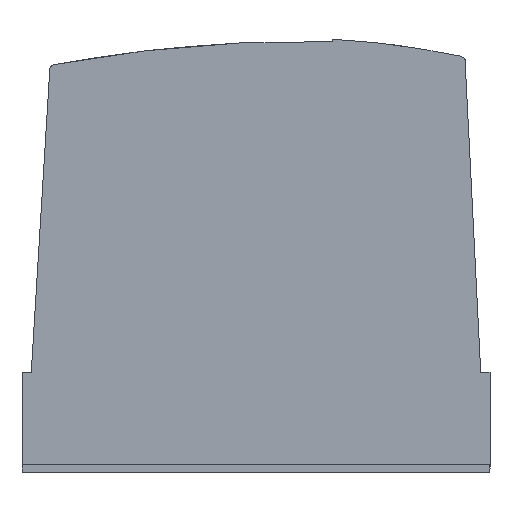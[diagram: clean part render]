
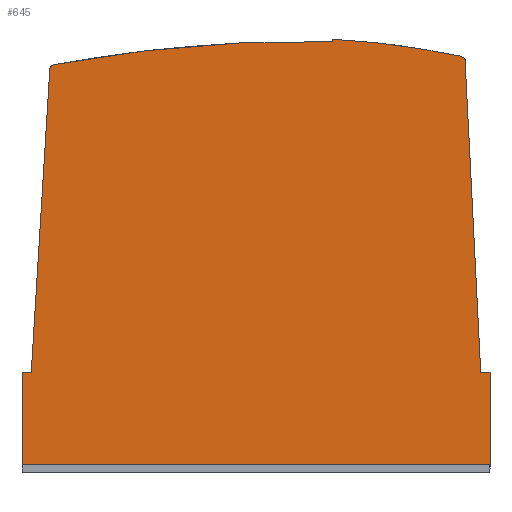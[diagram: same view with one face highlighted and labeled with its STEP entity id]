
A CAD part, top view. The second image highlights one B-rep face of the part: STEP entity #645.
In plain terms, the highlighted planar face has unit normal (0, 0, 1).
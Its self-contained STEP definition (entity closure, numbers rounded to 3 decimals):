
#108 = DIRECTION ( 'NONE',  ( -1., 0., 0. ) ) ;
#178 = CARTESIAN_POINT ( 'NONE',  ( 9.641, -125.567, 178. ) ) ;
#254 = PLANE ( 'NONE',  #2077 ) ;
#298 = CARTESIAN_POINT ( 'NONE',  ( 9.641, -350.081, 178. ) ) ;
#322 = DIRECTION ( 'NONE',  ( -1., 0., 0. ) ) ;
#360 = AXIS2_PLACEMENT_3D ( 'NONE', #4106, #3176, #765 ) ;
#375 = EDGE_CURVE ( 'NONE', #2618, #4535, #4287, .T. ) ;
#471 = DIRECTION ( 'NONE',  ( 0., 0., 1. ) ) ;
#507 = VERTEX_POINT ( 'NONE', #5989 ) ;
#521 = CARTESIAN_POINT ( 'NONE',  ( 106.083, 96.762, 178. ) ) ;
#546 = CARTESIAN_POINT ( 'NONE',  ( 34.122, 108.175, 178. ) ) ;
#559 = VECTOR ( 'NONE', #2650, 1000. ) ;
#645 = ADVANCED_FACE ( 'NONE', ( #992 ), #254, .F. ) ;
#647 = VERTEX_POINT ( 'NONE', #3710 ) ;
#697 = EDGE_CURVE ( 'NONE', #3667, #3881, #2414, .T. ) ;
#765 = DIRECTION ( 'NONE',  ( -1., 0., 0. ) ) ;
#777 = ORIENTED_EDGE ( 'NONE', *, *, #1789, .T. ) ;
#821 = VECTOR ( 'NONE', #4185, 1000. ) ;
#834 = VECTOR ( 'NONE', #322, 1000. ) ;
#936 = DIRECTION ( 'NONE',  ( 0., 0., 1. ) ) ;
#983 = CARTESIAN_POINT ( 'NONE',  ( 120.854, -125.567, 178. ) ) ;
#992 = FACE_OUTER_BOUND ( 'NONE', #3381, .T. ) ;
#1169 = CARTESIAN_POINT ( 'NONE',  ( -136.146, -125.567, 178. ) ) ;
#1178 = ORIENTED_EDGE ( 'NONE', *, *, #4731, .T. ) ;
#1241 = VERTEX_POINT ( 'NONE', #3841 ) ;
#1244 = EDGE_CURVE ( 'NONE', #4617, #2350, #6083, .T. ) ;
#1270 = VERTEX_POINT ( 'NONE', #6311 ) ;
#1283 = VECTOR ( 'NONE', #3240, 1000. ) ;
#1286 = VECTOR ( 'NONE', #4028, 1000. ) ;
#1290 = DIRECTION ( 'NONE',  ( 0., -1., 0. ) ) ;
#1295 = DIRECTION ( 'NONE',  ( 0., 0., 1. ) ) ;
#1389 = CARTESIAN_POINT ( 'NONE',  ( 9.641, -125.567, 178. ) ) ;
#1409 = DIRECTION ( 'NONE',  ( 1., 0., 0. ) ) ;
#1605 = EDGE_CURVE ( 'NONE', #2350, #6088, #5327, .T. ) ;
#1701 = EDGE_CURVE ( 'NONE', #2734, #5488, #3181, .T. ) ;
#1762 = LINE ( 'NONE', #5133, #559 ) ;
#1789 = EDGE_CURVE ( 'NONE', #3453, #507, #4625, .T. ) ;
#1814 = CARTESIAN_POINT ( 'NONE',  ( 106.96, 97.415, 178. ) ) ;
#1882 = EDGE_CURVE ( 'NONE', #1241, #5334, #5863, .T. ) ;
#1890 = DIRECTION ( 'NONE',  ( 1., 0., 0. ) ) ;
#1919 = EDGE_CURVE ( 'NONE', #2104, #3522, #4326, .T. ) ;
#1990 = DIRECTION ( 'NONE',  ( 0., 1., 0. ) ) ;
#2077 = AXIS2_PLACEMENT_3D ( 'NONE', #298, #2762, #2175 ) ;
#2090 = LINE ( 'NONE', #5678, #821 ) ;
#2104 = VERTEX_POINT ( 'NONE', #4109 ) ;
#2152 = EDGE_CURVE ( 'NONE', #3522, #3310, #5149, .T. ) ;
#2175 = DIRECTION ( 'NONE',  ( -1., 0., 0. ) ) ;
#2180 = VECTOR ( 'NONE', #4817, 1000. ) ;
#2335 = AXIS2_PLACEMENT_3D ( 'NONE', #3787, #5183, #4759 ) ;
#2348 = EDGE_CURVE ( 'NONE', #5334, #1270, #6167, .T. ) ;
#2350 = VERTEX_POINT ( 'NONE', #5818 ) ;
#2356 = CARTESIAN_POINT ( 'NONE',  ( -99.478, -125.567, 178. ) ) ;
#2411 = CARTESIAN_POINT ( 'NONE',  ( 9.641, -350.081, 178. ) ) ;
#2414 = LINE ( 'NONE', #3628, #1283 ) ;
#2430 = CARTESIAN_POINT ( 'NONE',  ( -136.146, -74.567, 178. ) ) ;
#2469 = EDGE_CURVE ( 'NONE', #507, #2618, #2090, .T. ) ;
#2474 = ORIENTED_EDGE ( 'NONE', *, *, #1919, .T. ) ;
#2520 = CARTESIAN_POINT ( 'NONE',  ( 120.854, -74.567, 178. ) ) ;
#2530 = AXIS2_PLACEMENT_3D ( 'NONE', #2411, #471, #4314 ) ;
#2539 = ORIENTED_EDGE ( 'NONE', *, *, #2348, .T. ) ;
#2573 = EDGE_CURVE ( 'NONE', #3310, #4617, #4563, .T. ) ;
#2618 = VERTEX_POINT ( 'NONE', #4301 ) ;
#2648 = VECTOR ( 'NONE', #1409, 1000. ) ;
#2650 = DIRECTION ( 'NONE',  ( -0.061, -0.998, 0. ) ) ;
#2664 = AXIS2_PLACEMENT_3D ( 'NONE', #3509, #1295, #108 ) ;
#2695 = ORIENTED_EDGE ( 'NONE', *, *, #1244, .T. ) ;
#2734 = VERTEX_POINT ( 'NONE', #2922 ) ;
#2762 = DIRECTION ( 'NONE',  ( 0., 0., -1. ) ) ;
#2863 = ORIENTED_EDGE ( 'NONE', *, *, #1605, .T. ) ;
#2887 = AXIS2_PLACEMENT_3D ( 'NONE', #3811, #936, #4320 ) ;
#2922 = CARTESIAN_POINT ( 'NONE',  ( -118.459, 94.282, 178. ) ) ;
#2958 = ORIENTED_EDGE ( 'NONE', *, *, #2573, .T. ) ;
#3092 = CIRCLE ( 'NONE', #2664, 759.998 ) ;
#3176 = DIRECTION ( 'NONE',  ( 0., 0., -1. ) ) ;
#3181 = CIRCLE ( 'NONE', #2335, 3.013 ) ;
#3240 = DIRECTION ( 'NONE',  ( 1., 0., 0. ) ) ;
#3248 = VECTOR ( 'NONE', #4261, 1000. ) ;
#3302 = CARTESIAN_POINT ( 'NONE',  ( 120.854, -74.567, 178. ) ) ;
#3310 = VERTEX_POINT ( 'NONE', #1169 ) ;
#3381 = EDGE_LOOP ( 'NONE', ( #4648, #2958, #2695, #2863, #4075, #5143, #4763, #777, #4553, #5383, #3796, #4744, #2539, #1178, #4082, #5022, #4200, #2474 ) ) ;
#3453 = VERTEX_POINT ( 'NONE', #3302 ) ;
#3509 = CARTESIAN_POINT ( 'NONE',  ( 20.11, -652.976, 178. ) ) ;
#3522 = VERTEX_POINT ( 'NONE', #4813 ) ;
#3564 = EDGE_CURVE ( 'NONE', #647, #2734, #3092, .T. ) ;
#3573 = CIRCLE ( 'NONE', #360, 0.361 ) ;
#3628 = CARTESIAN_POINT ( 'NONE',  ( 9.641, -125.567, 178. ) ) ;
#3667 = VERTEX_POINT ( 'NONE', #5128 ) ;
#3710 = CARTESIAN_POINT ( 'NONE',  ( 33.907, 106.897, 178. ) ) ;
#3787 = CARTESIAN_POINT ( 'NONE',  ( -117.91, 91.32, 178. ) ) ;
#3796 = ORIENTED_EDGE ( 'NONE', *, *, #4666, .T. ) ;
#3811 = CARTESIAN_POINT ( 'NONE',  ( 103.393, 94.342, 178. ) ) ;
#3812 = CIRCLE ( 'NONE', #2887, 4.709 ) ;
#3822 = CARTESIAN_POINT ( 'NONE',  ( 34.111, 107.07, 178. ) ) ;
#3841 = CARTESIAN_POINT ( 'NONE',  ( 104.542, 98.908, 178. ) ) ;
#3881 = VERTEX_POINT ( 'NONE', #983 ) ;
#3900 = DIRECTION ( 'NONE',  ( 0., 0., 1. ) ) ;
#3934 = EDGE_CURVE ( 'NONE', #6088, #3667, #4045, .T. ) ;
#4028 = DIRECTION ( 'NONE',  ( 1., 0., 0. ) ) ;
#4045 = LINE ( 'NONE', #178, #5356 ) ;
#4075 = ORIENTED_EDGE ( 'NONE', *, *, #3934, .T. ) ;
#4082 = ORIENTED_EDGE ( 'NONE', *, *, #3564, .T. ) ;
#4106 = CARTESIAN_POINT ( 'NONE',  ( 33.792, 107.239, 178. ) ) ;
#4109 = CARTESIAN_POINT ( 'NONE',  ( -131.041, -74.567, 178. ) ) ;
#4185 = DIRECTION ( 'NONE',  ( -0.05, 0.999, 0. ) ) ;
#4199 = CARTESIAN_POINT ( 'NONE',  ( 115.746, -74.567, 178. ) ) ;
#4200 = ORIENTED_EDGE ( 'NONE', *, *, #5546, .T. ) ;
#4261 = DIRECTION ( 'NONE',  ( 1., 0., 0. ) ) ;
#4283 = CARTESIAN_POINT ( 'NONE',  ( 91.126, -125.567, 178. ) ) ;
#4287 = CIRCLE ( 'NONE', #4579, 1.094 ) ;
#4301 = CARTESIAN_POINT ( 'NONE',  ( 107.173, 96.677, 178. ) ) ;
#4314 = DIRECTION ( 'NONE',  ( -1., 0., 0. ) ) ;
#4320 = DIRECTION ( 'NONE',  ( 1., 0., 0. ) ) ;
#4326 = LINE ( 'NONE', #2430, #5630 ) ;
#4360 = VECTOR ( 'NONE', #1990, 1000. ) ;
#4489 = CARTESIAN_POINT ( 'NONE',  ( 9.641, -125.567, 178. ) ) ;
#4535 = VERTEX_POINT ( 'NONE', #1814 ) ;
#4537 = DIRECTION ( 'NONE',  ( 1., 0., 0. ) ) ;
#4553 = ORIENTED_EDGE ( 'NONE', *, *, #2469, .T. ) ;
#4563 = LINE ( 'NONE', #1389, #2648 ) ;
#4579 = AXIS2_PLACEMENT_3D ( 'NONE', #521, #3900, #1890 ) ;
#4617 = VERTEX_POINT ( 'NONE', #2356 ) ;
#4625 = LINE ( 'NONE', #4199, #834 ) ;
#4648 = ORIENTED_EDGE ( 'NONE', *, *, #2152, .T. ) ;
#4666 = EDGE_CURVE ( 'NONE', #4535, #1241, #3812, .T. ) ;
#4731 = EDGE_CURVE ( 'NONE', #1270, #647, #3573, .T. ) ;
#4744 = ORIENTED_EDGE ( 'NONE', *, *, #1882, .T. ) ;
#4759 = DIRECTION ( 'NONE',  ( -1., 0., 0. ) ) ;
#4763 = ORIENTED_EDGE ( 'NONE', *, *, #4916, .T. ) ;
#4797 = CARTESIAN_POINT ( 'NONE',  ( 9.641, -125.567, 178. ) ) ;
#4805 = DIRECTION ( 'NONE',  ( -1., 0., 0. ) ) ;
#4813 = CARTESIAN_POINT ( 'NONE',  ( -136.146, -74.567, 178. ) ) ;
#4817 = DIRECTION ( 'NONE',  ( -0.01, -1., 0. ) ) ;
#4916 = EDGE_CURVE ( 'NONE', #3881, #3453, #5668, .T. ) ;
#5022 = ORIENTED_EDGE ( 'NONE', *, *, #1701, .T. ) ;
#5106 = CARTESIAN_POINT ( 'NONE',  ( -136.146, -74.567, 178. ) ) ;
#5128 = CARTESIAN_POINT ( 'NONE',  ( 104.407, -125.567, 178. ) ) ;
#5133 = CARTESIAN_POINT ( 'NONE',  ( -120.892, 91.746, 178. ) ) ;
#5143 = ORIENTED_EDGE ( 'NONE', *, *, #697, .T. ) ;
#5149 = LINE ( 'NONE', #5106, #5394 ) ;
#5183 = DIRECTION ( 'NONE',  ( 0., 0., 1. ) ) ;
#5327 = LINE ( 'NONE', #4489, #1286 ) ;
#5334 = VERTEX_POINT ( 'NONE', #546 ) ;
#5356 = VECTOR ( 'NONE', #4537, 1000. ) ;
#5383 = ORIENTED_EDGE ( 'NONE', *, *, #375, .T. ) ;
#5394 = VECTOR ( 'NONE', #1290, 1000. ) ;
#5475 = CARTESIAN_POINT ( 'NONE',  ( -120.892, 91.746, 178. ) ) ;
#5488 = VERTEX_POINT ( 'NONE', #5475 ) ;
#5546 = EDGE_CURVE ( 'NONE', #5488, #2104, #1762, .T. ) ;
#5630 = VECTOR ( 'NONE', #4805, 1000. ) ;
#5668 = LINE ( 'NONE', #2520, #4360 ) ;
#5678 = CARTESIAN_POINT ( 'NONE',  ( 107.173, 96.677, 178. ) ) ;
#5818 = CARTESIAN_POINT ( 'NONE',  ( -86.203, -125.567, 178. ) ) ;
#5863 = CIRCLE ( 'NONE', #2530, 458.909 ) ;
#5989 = CARTESIAN_POINT ( 'NONE',  ( 115.746, -74.567, 178. ) ) ;
#6083 = LINE ( 'NONE', #4797, #3248 ) ;
#6088 = VERTEX_POINT ( 'NONE', #4283 ) ;
#6167 = LINE ( 'NONE', #3822, #2180 ) ;
#6311 = CARTESIAN_POINT ( 'NONE',  ( 34.111, 107.07, 178. ) ) ;
